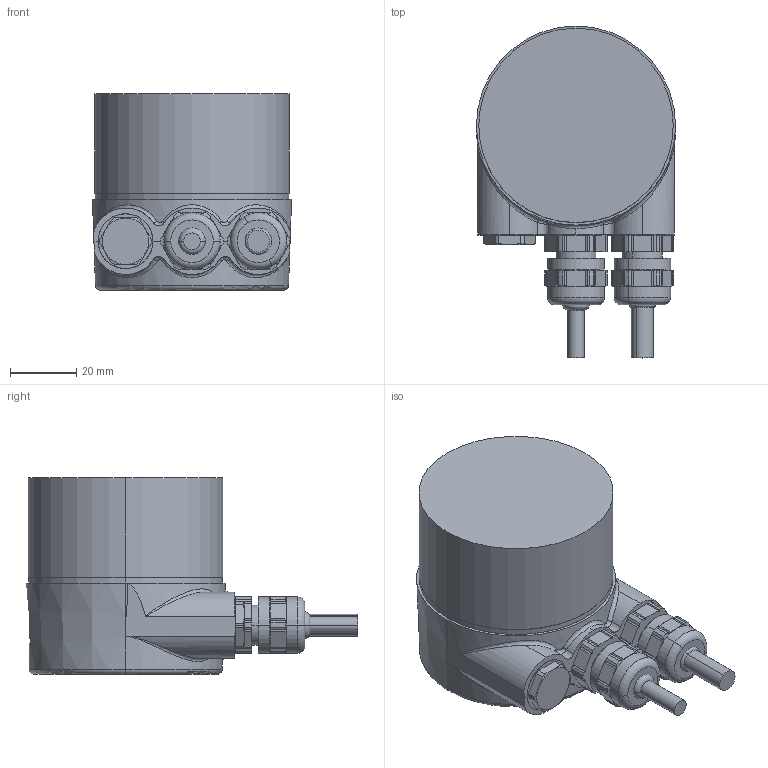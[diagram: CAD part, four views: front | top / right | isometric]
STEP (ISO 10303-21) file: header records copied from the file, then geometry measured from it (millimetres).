
FILE_DESCRIPTION (( 'STEP AP214' ), '1' );
FILE_NAME ('drawing-oc-5-ei-595-sws-eireir-y-cre-n.STEP', '2023-03-17T11:28:15', ( '' ), ( '' ), 'SwSTEP 2.0', 'SolidWorks 2022', '' );
FILE_SCHEMA (( 'AUTOMOTIVE_DESIGN' ));
Length unit declared in the file: millimetre
Products named in the file (1): drawing-oc-5-ei-595-sws-eireir-y-cre-n
Bounding box: 60 x 100 x 59.25 mm (x, y, z)
Volume: 177476.6 mm3; surface area: 48904.8 mm2
Topology: 14 solids, 16 shells, 1420 faces, 3789 edges, 2494 vertices
Faces by surface type: plane 723, bspline 328, cylinder 238, cone 105, torus 26
Entity records: 76489 total; most frequent: CARTESIAN_POINT 27671, ORIENTED_EDGE 7578, DIRECTION 5667, EDGE_CURVE 3789, VERTEX_POINT 2494, LINE 2239, VECTOR 2239, AXIS2_PLACEMENT_3D 1714
